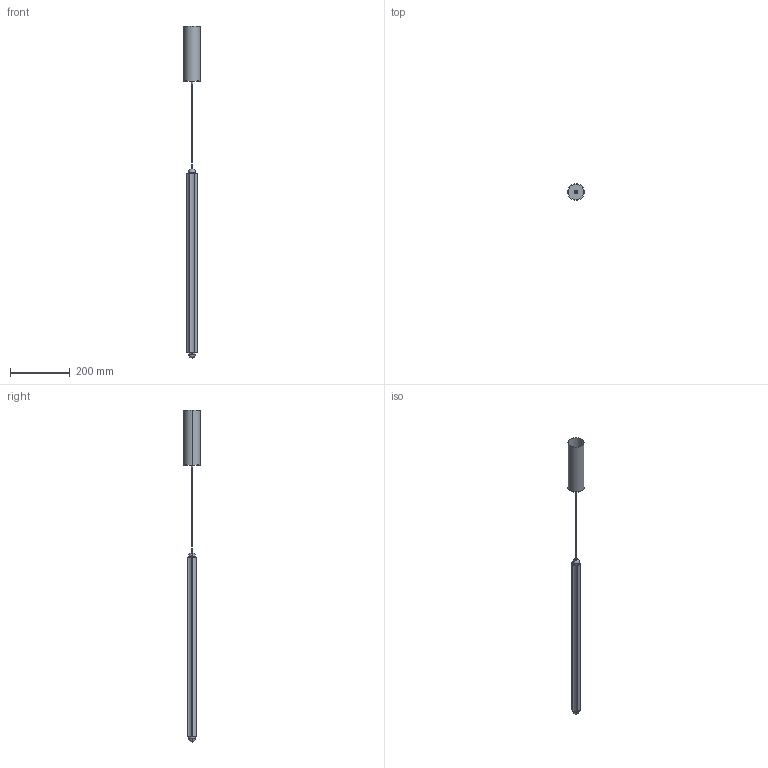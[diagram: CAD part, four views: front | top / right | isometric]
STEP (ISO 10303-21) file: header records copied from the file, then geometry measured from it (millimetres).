
FILE_DESCRIPTION(/* description */ (''),/* implementation_level */ '2;1');
FILE_NAME(/* name */ '64602-111_3d',/* time_stamp */ '2026-05-25T12:14:55+02:00',/* author */ (''),/* organization */ (''),/* preprocessor_version */ 'ST-DEVELOPER v19.2',/* originating_system */ 'Rhino 8.30',/* authorisation */ '');
FILE_SCHEMA (('CONFIG_CONTROL_DESIGN'));
Length unit declared in the file: millimetre
Products named in the file (3): Document; Block 11; Block 09
Bounding box: 55 x 55 x 1111.75 mm (x, y, z)
Volume: 256408.8 mm3; surface area: 170865.8 mm2
Topology: 3 solids, 34 shells, 93 faces, 334 edges, 276 vertices
Faces by surface type: cylinder 55, plane 34, bspline 4
Entity records: 4952 total; most frequent: CARTESIAN_POINT 2110, ORIENTED_EDGE 484, DIRECTION 363, EDGE_CURVE 330, VERTEX_POINT 276, AXIS2_PLACEMENT_3D 226, B_SPLINE_CURVE_WITH_KNOTS 187, TRIMMED_CURVE 129
